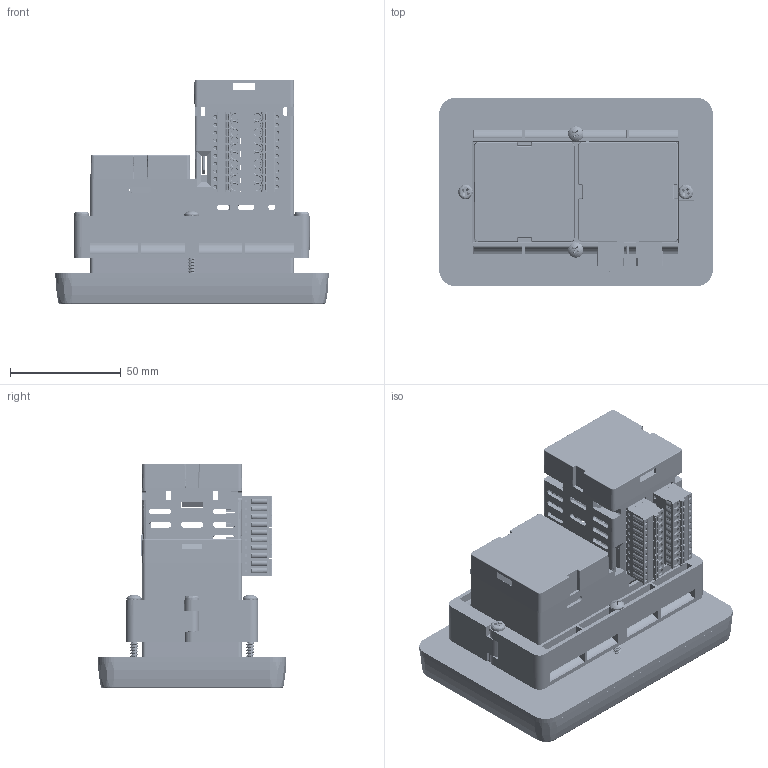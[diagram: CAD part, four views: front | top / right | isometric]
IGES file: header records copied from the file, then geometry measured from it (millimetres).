
Start section: SolidWorks IGES file using analytic representation for surfaces
Global section: file name: W:\Teams\Mech\SE data\Product_Lines\Customer 3D Models (Step files)\PM50\4.3\IGES\4.3 PM50 (GPM).IGS; native system: SolidWorks 2022; preprocessor: SolidWorks 2022; author: joseph.cirabisi; date: 221220.101337; units: millimetre
Bounding box: 123.59 x 84.91 x 101.42 mm (x, y, z)
Surface area: 175631.2 mm2 (no closed solid volume)
Topology: 0 solids, 0 shells, 7847 faces, 59091 edges, 58150 vertices
Faces by surface type: bspline 4442, revolution 3405
